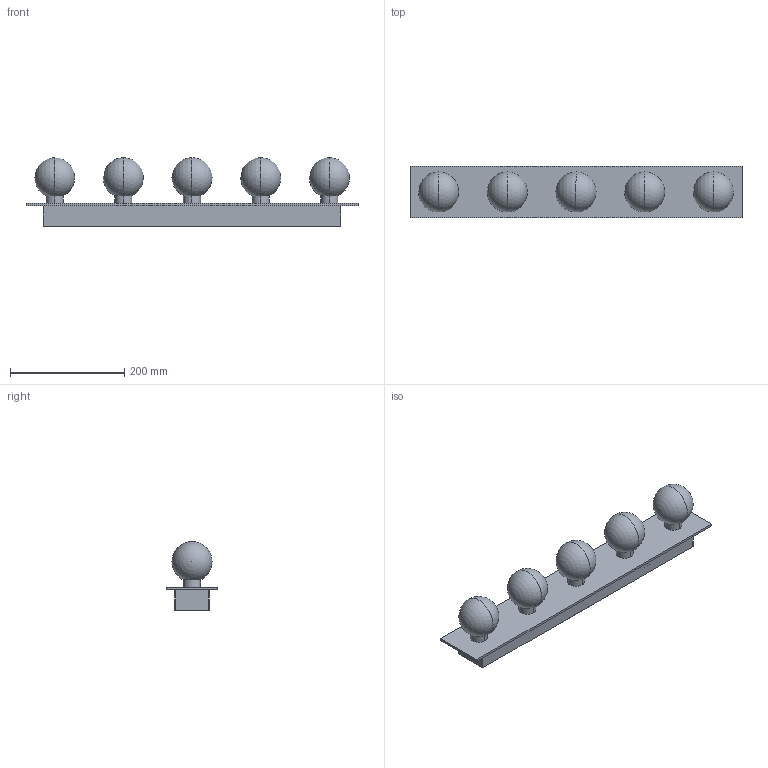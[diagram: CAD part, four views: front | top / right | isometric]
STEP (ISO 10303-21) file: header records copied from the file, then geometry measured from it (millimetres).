
FILE_DESCRIPTION(/* description */ (''),/* implementation_level */ '2;1');
FILE_NAME(/* name */ 'C:\Users\Franco Sartori E\Documents\FARO\DUPLICADO\Modelos\01_Digitalizados\PRIORIZACION 2D\3_LASS\03_Publicación\63009.stp',/* time_stamp */ '2020-12-23T13:36:30+01:00',/* author */ ('Franco Sartori E'),/* organization */ (''),/* preprocessor_version */ 'ST-DEVELOPER v18.1',/* originating_system */ 'AutoCAD Mechanical',/* authorisation */ '');
FILE_SCHEMA (('AUTOMOTIVE_DESIGN { 1 0 10303 214 3 1 1 }'));
Length unit declared in the file: millimetre
Products named in the file (2): Product; 63009_ - Lamp-458314-Export
Assembly tree (1 placements, depth 2):
  Product
    63009_ - Lamp-458314-Export
Bounding box: 580 x 90 x 120 mm (x, y, z)
Volume: 1221193.5 mm3; surface area: 293851.1 mm2
Topology: 14 solids, 14 shells, 92 faces, 202 edges, 128 vertices
Faces by surface type: plane 64, cylinder 18, sphere 10
Entity records: 2530 total; most frequent: DIRECTION 438, CARTESIAN_POINT 415, ORIENTED_EDGE 384, EDGE_CURVE 192, AXIS2_PLACEMENT_3D 151, LINE 136, VECTOR 136, VERTEX_POINT 128
